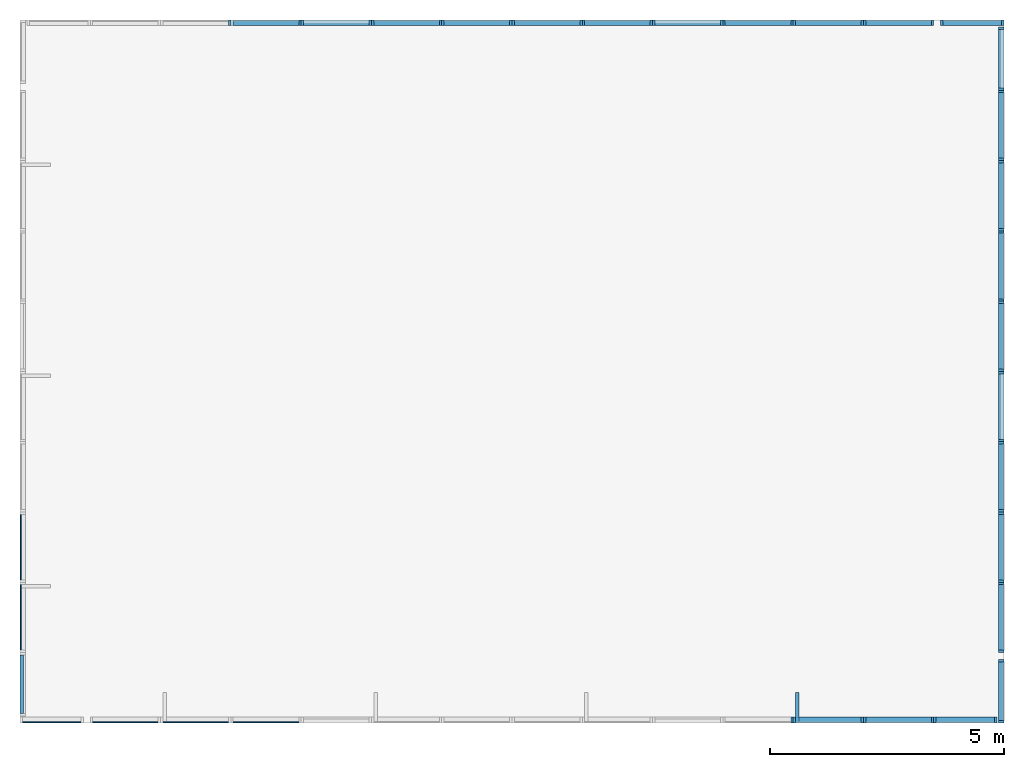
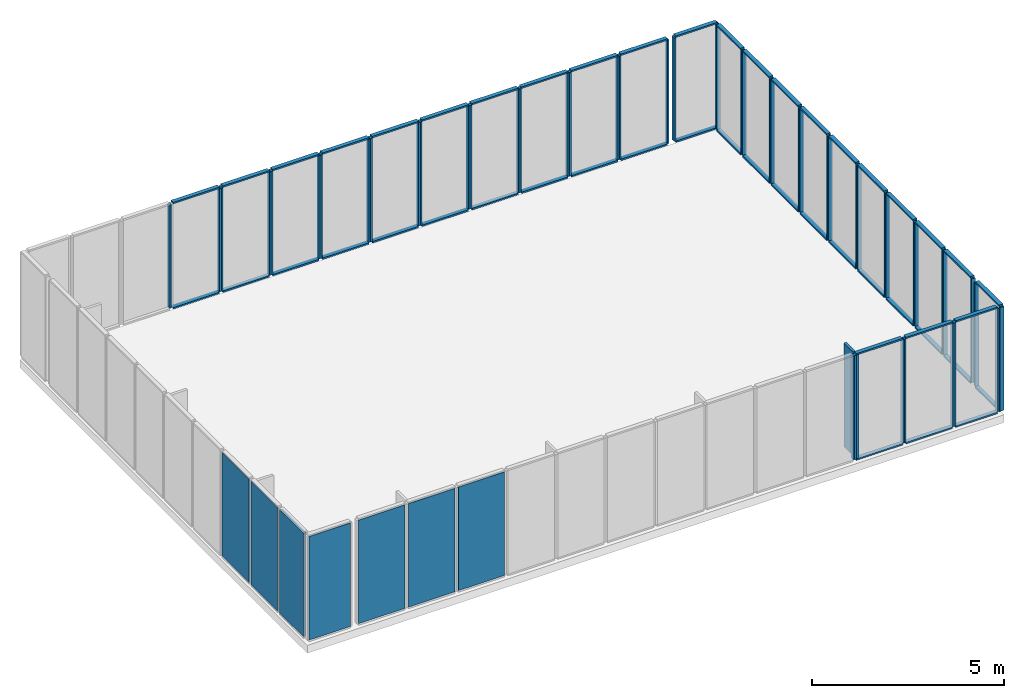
# One storey, part 2 of 3: 98 members, 7 plates.
"""IFC4 building model written with IfcOpenShell, lengths in metres."""

from ifc_helpers import new_model, si_unit, frame, origin_with_axes, place, context, subcontext, project, spatial, indexed_curve, outline, extrude, material, element, save


model = new_model("IFC4")

# Units and contexts
model_context = context("Model", 3, precision=1e-05, world=origin_with_axes())
body_context = subcontext(model_context, "Body", "Model", "MODEL_VIEW")
ifc_project = project(units=[si_unit("AREAUNIT", "SQUARE_METRE"), si_unit("VOLUMEUNIT", "CUBIC_METRE"), si_unit("LENGTHUNIT", "METRE")], contexts=[model_context])

# Site, building, storey
site = spatial("IfcSite", under=ifc_project, Name="Synthetic Site")
building = spatial("IfcBuilding", under=site, Name="Complex Tower")
storey_placement = place(None, frame((0.0, 0.0, 30.6), z_axis=(0.0, 0.0, 1.0), x_axis=(1.0, 0.0, 0.0)))
storey = spatial("IfcBuildingStorey", under=building, at=storey_placement, Name="L09", Elevation=30.6)

# Members
ifc_material_1 = material(Name="Aluminium")
for number, where, z_axis, x_axis, name in (
    (1, (19.45, 1.5, 0.14999999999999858), (0.0, 0.0, 1.0), (1.0, 0.0, 0.0), "CT-L09-S-011-MR"),
    (2, (19.5, 1.5, 0.14999999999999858), (0.0, 0.0, 1.0), (1.0, 0.0, 0.0), "CT-L09-S-012-ML"),
    (3, (20.95, 1.5, 0.14999999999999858), (0.0, 0.0, 1.0), (1.0, 0.0, 0.0), "CT-L09-S-012-MR"),
):
    element("IfcMember", number, at=place(storey_placement, frame(where, z_axis=z_axis, x_axis=x_axis)), inside=storey, material=ifc_material_1, Name=name, PredefinedType="MULLION", context=body_context, shape_type="SweptSolid", body=[
        extrude(outline(indexed_curve([(0.0, 0.0), (0.0, 0.12), (0.05, 0.12), (0.05, 0.0), (0.0, 0.0)], self_intersect=False)), origin_with_axes(), (0.0, 0.0, 1.0), 3.3000000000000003),
    ])
for number, where, z_axis, x_axis, name in (
    (4, (19.55, 1.5, 0.09999999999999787), (0.0, 0.0, 1.0), (1.0, 0.0, 0.0), "CT-L09-S-012-FB"),
    (5, (19.55, 1.5, 3.4499999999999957), (0.0, 0.0, 1.0), (1.0, 0.0, 0.0), "CT-L09-S-012-FT"),
):
    element("IfcMember", number, at=place(storey_placement, frame(where, z_axis=z_axis, x_axis=x_axis)), inside=storey, material=ifc_material_1, Name=name, PredefinedType="MULLION", context=body_context, shape_type="SweptSolid", body=[
        extrude(outline(indexed_curve([(0.0, 0.0), (0.0, 0.12), (1.4, 0.12), (1.4, 0.0), (0.0, 0.0)], self_intersect=False)), origin_with_axes(), (0.0, 0.0, 1.0), 0.05),
    ])
member_1_placement = place(storey_placement, frame((19.55, 1.5, 0.14999999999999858), z_axis=(0.0, 0.0, 1.0), x_axis=(1.0, 0.0, 0.0)))
element("IfcMember", 6, at=member_1_placement, inside=storey, material=ifc_material_1, Name="CT-L09-S-012-FIN", ObjectType="Solar shading", PredefinedType="USERDEFINED", context=body_context, shape_type="SweptSolid", body=[
    extrude(outline(indexed_curve([(0.0, 0.0), (0.0, 0.65), (0.075, 0.65), (0.075, 0.0), (0.0, 0.0)], self_intersect=False)), origin_with_axes(), (0.0, 0.0, 1.0), 3.3000000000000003),
])
for number, where, z_axis, x_axis, name in (
    (7, (21.0, 1.5, 0.14999999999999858), (0.0, 0.0, 1.0), (1.0, 0.0, 0.0), "CT-L09-S-013-ML"),
    (8, (22.45, 1.5, 0.14999999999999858), (0.0, 0.0, 1.0), (1.0, 0.0, 0.0), "CT-L09-S-013-MR"),
):
    element("IfcMember", number, at=place(storey_placement, frame(where, z_axis=z_axis, x_axis=x_axis)), inside=storey, material=ifc_material_1, Name=name, PredefinedType="MULLION", context=body_context, shape_type="SweptSolid", body=[
        extrude(outline(indexed_curve([(0.0, 0.0), (0.0, 0.12), (0.05, 0.12), (0.05, 0.0), (0.0, 0.0)], self_intersect=False)), origin_with_axes(), (0.0, 0.0, 1.0), 3.3000000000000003),
    ])
for number, where, z_axis, x_axis, name in (
    (9, (21.05, 1.5, 0.09999999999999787), (0.0, 0.0, 1.0), (1.0, 0.0, 0.0), "CT-L09-S-013-FB"),
    (10, (21.05, 1.5, 3.4499999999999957), (0.0, 0.0, 1.0), (1.0, 0.0, 0.0), "CT-L09-S-013-FT"),
):
    element("IfcMember", number, at=place(storey_placement, frame(where, z_axis=z_axis, x_axis=x_axis)), inside=storey, material=ifc_material_1, Name=name, PredefinedType="MULLION", context=body_context, shape_type="SweptSolid", body=[
        extrude(outline(indexed_curve([(0.0, 0.0), (0.0, 0.12), (1.4, 0.12), (1.4, 0.0), (0.0, 0.0)], self_intersect=False)), origin_with_axes(), (0.0, 0.0, 1.0), 0.05),
    ])
for number, where, z_axis, x_axis, name in (
    (11, (22.5, 1.5, 0.14999999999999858), (0.0, 0.0, 1.0), (1.0, 0.0, 0.0), "CT-L09-S-014-ML"),
    (12, (23.8, 1.5, 0.14999999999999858), (0.0, 0.0, 1.0), (1.0, 0.0, 0.0), "CT-L09-S-014-MR"),
):
    element("IfcMember", number, at=place(storey_placement, frame(where, z_axis=z_axis, x_axis=x_axis)), inside=storey, material=ifc_material_1, Name=name, PredefinedType="MULLION", context=body_context, shape_type="SweptSolid", body=[
        extrude(outline(indexed_curve([(0.0, 0.0), (0.0, 0.12), (0.05, 0.12), (0.05, 0.0), (0.0, 0.0)], self_intersect=False)), origin_with_axes(), (0.0, 0.0, 1.0), 3.3000000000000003),
    ])
for number, where, z_axis, x_axis, name in (
    (13, (22.55, 1.5, 0.09999999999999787), (0.0, 0.0, 1.0), (1.0, 0.0, 0.0), "CT-L09-S-014-FB"),
    (14, (22.55, 1.5, 3.4499999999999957), (0.0, 0.0, 1.0), (1.0, 0.0, 0.0), "CT-L09-S-014-FT"),
):
    element("IfcMember", number, at=place(storey_placement, frame(where, z_axis=z_axis, x_axis=x_axis)), inside=storey, material=ifc_material_1, Name=name, PredefinedType="MULLION", context=body_context, shape_type="SweptSolid", body=[
        extrude(outline(indexed_curve([(0.0, 0.0), (0.0, 0.12), (1.25, 0.12), (1.25, 0.0), (0.0, 0.0)], self_intersect=False)), origin_with_axes(), (0.0, 0.0, 1.0), 0.05),
    ])
for number, where, z_axis, x_axis, name in (
    (15, (24.0, 1.5, 0.14999999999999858), (0.0, 0.0, 1.0), (6.123233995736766e-17, 1.0, 0.0), "CT-L09-E-001-ML"),
    (16, (24.0, 2.8, 0.14999999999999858), (0.0, 0.0, 1.0), (6.123233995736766e-17, 1.0, 0.0), "CT-L09-E-001-MR"),
):
    element("IfcMember", number, at=place(storey_placement, frame(where, z_axis=z_axis, x_axis=x_axis)), inside=storey, material=ifc_material_1, Name=name, PredefinedType="MULLION", context=body_context, shape_type="SweptSolid", body=[
        extrude(outline(indexed_curve([(0.0, 0.0), (0.0, 0.12), (0.05, 0.12), (0.05, 0.0), (0.0, 0.0)], self_intersect=False)), origin_with_axes(), (0.0, 0.0, 1.0), 3.3000000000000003),
    ])
for number, where, z_axis, x_axis, name in (
    (17, (24.0, 1.55, 0.09999999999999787), (0.0, 0.0, 1.0), (6.123233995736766e-17, 1.0, 0.0), "CT-L09-E-001-FB"),
    (18, (24.0, 1.55, 3.4499999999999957), (0.0, 0.0, 1.0), (6.123233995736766e-17, 1.0, 0.0), "CT-L09-E-001-FT"),
):
    element("IfcMember", number, at=place(storey_placement, frame(where, z_axis=z_axis, x_axis=x_axis)), inside=storey, material=ifc_material_1, Name=name, PredefinedType="MULLION", context=body_context, shape_type="SweptSolid", body=[
        extrude(outline(indexed_curve([(0.0, 0.0), (0.0, 0.12), (1.25, 0.12), (1.25, 0.0), (0.0, 0.0)], self_intersect=False)), origin_with_axes(), (0.0, 0.0, 1.0), 0.05),
    ])
for number, where, z_axis, x_axis, name in (
    (19, (24.0, 3.0, 0.14999999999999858), (0.0, 0.0, 1.0), (6.123233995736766e-17, 1.0, 0.0), "CT-L09-E-002-ML"),
    (20, (24.0, 4.449999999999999, 0.14999999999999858), (0.0, 0.0, 1.0), (6.123233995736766e-17, 1.0, 0.0), "CT-L09-E-002-MR"),
):
    element("IfcMember", number, at=place(storey_placement, frame(where, z_axis=z_axis, x_axis=x_axis)), inside=storey, material=ifc_material_1, Name=name, PredefinedType="MULLION", context=body_context, shape_type="SweptSolid", body=[
        extrude(outline(indexed_curve([(0.0, 0.0), (0.0, 0.12), (0.05, 0.12), (0.05, 0.0), (0.0, 0.0)], self_intersect=False)), origin_with_axes(), (0.0, 0.0, 1.0), 3.3000000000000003),
    ])
for number, where, z_axis, x_axis, name in (
    (21, (24.0, 3.05, 0.09999999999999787), (0.0, 0.0, 1.0), (6.123233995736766e-17, 1.0, 0.0), "CT-L09-E-002-FB"),
    (22, (24.0, 3.05, 3.4499999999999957), (0.0, 0.0, 1.0), (6.123233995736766e-17, 1.0, 0.0), "CT-L09-E-002-FT"),
):
    element("IfcMember", number, at=place(storey_placement, frame(where, z_axis=z_axis, x_axis=x_axis)), inside=storey, material=ifc_material_1, Name=name, PredefinedType="MULLION", context=body_context, shape_type="SweptSolid", body=[
        extrude(outline(indexed_curve([(0.0, 0.0), (0.0, 0.12), (1.4, 0.12), (1.4, 0.0), (0.0, 0.0)], self_intersect=False)), origin_with_axes(), (0.0, 0.0, 1.0), 0.05),
    ])
for number, where, z_axis, x_axis, name in (
    (23, (24.0, 4.5, 0.14999999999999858), (0.0, 0.0, 1.0), (6.123233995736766e-17, 1.0, 0.0), "CT-L09-E-003-ML"),
    (24, (24.0, 5.949999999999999, 0.14999999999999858), (0.0, 0.0, 1.0), (6.123233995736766e-17, 1.0, 0.0), "CT-L09-E-003-MR"),
):
    element("IfcMember", number, at=place(storey_placement, frame(where, z_axis=z_axis, x_axis=x_axis)), inside=storey, material=ifc_material_1, Name=name, PredefinedType="MULLION", context=body_context, shape_type="SweptSolid", body=[
        extrude(outline(indexed_curve([(0.0, 0.0), (0.0, 0.12), (0.05, 0.12), (0.05, 0.0), (0.0, 0.0)], self_intersect=False)), origin_with_axes(), (0.0, 0.0, 1.0), 3.3000000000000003),
    ])
for number, where, z_axis, x_axis, name in (
    (25, (24.0, 4.55, 0.09999999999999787), (0.0, 0.0, 1.0), (6.123233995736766e-17, 1.0, 0.0), "CT-L09-E-003-FB"),
    (26, (24.0, 4.55, 3.4499999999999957), (0.0, 0.0, 1.0), (6.123233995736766e-17, 1.0, 0.0), "CT-L09-E-003-FT"),
):
    element("IfcMember", number, at=place(storey_placement, frame(where, z_axis=z_axis, x_axis=x_axis)), inside=storey, material=ifc_material_1, Name=name, PredefinedType="MULLION", context=body_context, shape_type="SweptSolid", body=[
        extrude(outline(indexed_curve([(0.0, 0.0), (0.0, 0.12), (1.4, 0.12), (1.4, 0.0), (0.0, 0.0)], self_intersect=False)), origin_with_axes(), (0.0, 0.0, 1.0), 0.05),
    ])
for number, where, z_axis, x_axis, name in (
    (27, (24.0, 6.0, 0.14999999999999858), (0.0, 0.0, 1.0), (6.123233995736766e-17, 1.0, 0.0), "CT-L09-E-004-ML"),
    (28, (24.0, 7.449999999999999, 0.14999999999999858), (0.0, 0.0, 1.0), (6.123233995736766e-17, 1.0, 0.0), "CT-L09-E-004-MR"),
):
    element("IfcMember", number, at=place(storey_placement, frame(where, z_axis=z_axis, x_axis=x_axis)), inside=storey, material=ifc_material_1, Name=name, PredefinedType="MULLION", context=body_context, shape_type="SweptSolid", body=[
        extrude(outline(indexed_curve([(0.0, 0.0), (0.0, 0.12), (0.05, 0.12), (0.05, 0.0), (0.0, 0.0)], self_intersect=False)), origin_with_axes(), (0.0, 0.0, 1.0), 3.3000000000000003),
    ])
for number, where, z_axis, x_axis, name in (
    (29, (24.0, 6.05, 0.09999999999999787), (0.0, 0.0, 1.0), (6.123233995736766e-17, 1.0, 0.0), "CT-L09-E-004-FB"),
    (30, (24.0, 6.05, 3.4499999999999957), (0.0, 0.0, 1.0), (6.123233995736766e-17, 1.0, 0.0), "CT-L09-E-004-FT"),
):
    element("IfcMember", number, at=place(storey_placement, frame(where, z_axis=z_axis, x_axis=x_axis)), inside=storey, material=ifc_material_1, Name=name, PredefinedType="MULLION", context=body_context, shape_type="SweptSolid", body=[
        extrude(outline(indexed_curve([(0.0, 0.0), (0.0, 0.12), (1.4, 0.12), (1.4, 0.0), (0.0, 0.0)], self_intersect=False)), origin_with_axes(), (0.0, 0.0, 1.0), 0.05),
    ])
for number, where, z_axis, x_axis, name in (
    (31, (24.0, 7.5, 0.14999999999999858), (0.0, 0.0, 1.0), (6.123233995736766e-17, 1.0, 0.0), "CT-L09-E-005-ML"),
    (32, (24.0, 8.95, 0.14999999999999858), (0.0, 0.0, 1.0), (6.123233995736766e-17, 1.0, 0.0), "CT-L09-E-005-MR"),
):
    element("IfcMember", number, at=place(storey_placement, frame(where, z_axis=z_axis, x_axis=x_axis)), inside=storey, material=ifc_material_1, Name=name, PredefinedType="MULLION", context=body_context, shape_type="SweptSolid", body=[
        extrude(outline(indexed_curve([(0.0, 0.0), (0.0, 0.12), (0.05, 0.12), (0.05, 0.0), (0.0, 0.0)], self_intersect=False)), origin_with_axes(), (0.0, 0.0, 1.0), 3.3000000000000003),
    ])
for number, where, z_axis, x_axis, name in (
    (33, (24.0, 7.55, 0.09999999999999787), (0.0, 0.0, 1.0), (6.123233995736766e-17, 1.0, 0.0), "CT-L09-E-005-FB"),
    (34, (24.0, 7.55, 3.4499999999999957), (0.0, 0.0, 1.0), (6.123233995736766e-17, 1.0, 0.0), "CT-L09-E-005-FT"),
):
    element("IfcMember", number, at=place(storey_placement, frame(where, z_axis=z_axis, x_axis=x_axis)), inside=storey, material=ifc_material_1, Name=name, PredefinedType="MULLION", context=body_context, shape_type="SweptSolid", body=[
        extrude(outline(indexed_curve([(0.0, 0.0), (0.0, 0.12), (1.4, 0.12), (1.4, 0.0), (0.0, 0.0)], self_intersect=False)), origin_with_axes(), (0.0, 0.0, 1.0), 0.05),
    ])
for number, where, z_axis, x_axis, name in (
    (35, (24.0, 9.0, 0.14999999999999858), (0.0, 0.0, 1.0), (6.123233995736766e-17, 1.0, 0.0), "CT-L09-E-006-ML"),
    (36, (24.0, 10.450000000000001, 0.14999999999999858), (0.0, 0.0, 1.0), (6.123233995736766e-17, 1.0, 0.0), "CT-L09-E-006-MR"),
):
    element("IfcMember", number, at=place(storey_placement, frame(where, z_axis=z_axis, x_axis=x_axis)), inside=storey, material=ifc_material_1, Name=name, PredefinedType="MULLION", context=body_context, shape_type="SweptSolid", body=[
        extrude(outline(indexed_curve([(0.0, 0.0), (0.0, 0.12), (0.05, 0.12), (0.05, 0.0), (0.0, 0.0)], self_intersect=False)), origin_with_axes(), (0.0, 0.0, 1.0), 3.3000000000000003),
    ])
for number, where, z_axis, x_axis, name in (
    (37, (24.0, 9.05, 0.09999999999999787), (0.0, 0.0, 1.0), (6.123233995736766e-17, 1.0, 0.0), "CT-L09-E-006-FB"),
    (38, (24.0, 9.05, 3.4499999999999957), (0.0, 0.0, 1.0), (6.123233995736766e-17, 1.0, 0.0), "CT-L09-E-006-FT"),
):
    element("IfcMember", number, at=place(storey_placement, frame(where, z_axis=z_axis, x_axis=x_axis)), inside=storey, material=ifc_material_1, Name=name, PredefinedType="MULLION", context=body_context, shape_type="SweptSolid", body=[
        extrude(outline(indexed_curve([(0.0, 0.0), (0.0, 0.12), (1.4, 0.12), (1.4, 0.0), (0.0, 0.0)], self_intersect=False)), origin_with_axes(), (0.0, 0.0, 1.0), 0.05),
    ])
for number, where, z_axis, x_axis, name in (
    (39, (24.0, 10.5, 0.14999999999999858), (0.0, 0.0, 1.0), (6.123233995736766e-17, 1.0, 0.0), "CT-L09-E-007-ML"),
    (40, (24.0, 11.950000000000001, 0.14999999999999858), (0.0, 0.0, 1.0), (6.123233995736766e-17, 1.0, 0.0), "CT-L09-E-007-MR"),
):
    element("IfcMember", number, at=place(storey_placement, frame(where, z_axis=z_axis, x_axis=x_axis)), inside=storey, material=ifc_material_1, Name=name, PredefinedType="MULLION", context=body_context, shape_type="SweptSolid", body=[
        extrude(outline(indexed_curve([(0.0, 0.0), (0.0, 0.12), (0.05, 0.12), (0.05, 0.0), (0.0, 0.0)], self_intersect=False)), origin_with_axes(), (0.0, 0.0, 1.0), 3.3000000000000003),
    ])
for number, where, z_axis, x_axis, name in (
    (41, (24.0, 10.55, 0.09999999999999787), (0.0, 0.0, 1.0), (6.123233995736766e-17, 1.0, 0.0), "CT-L09-E-007-FB"),
    (42, (24.0, 10.55, 3.4499999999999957), (0.0, 0.0, 1.0), (6.123233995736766e-17, 1.0, 0.0), "CT-L09-E-007-FT"),
):
    element("IfcMember", number, at=place(storey_placement, frame(where, z_axis=z_axis, x_axis=x_axis)), inside=storey, material=ifc_material_1, Name=name, PredefinedType="MULLION", context=body_context, shape_type="SweptSolid", body=[
        extrude(outline(indexed_curve([(0.0, 0.0), (0.0, 0.12), (1.4, 0.12), (1.4, 0.0), (0.0, 0.0)], self_intersect=False)), origin_with_axes(), (0.0, 0.0, 1.0), 0.05),
    ])
for number, where, z_axis, x_axis, name in (
    (43, (24.0, 12.0, 0.14999999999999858), (0.0, 0.0, 1.0), (6.123233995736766e-17, 1.0, 0.0), "CT-L09-E-008-ML"),
    (44, (24.0, 13.450000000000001, 0.14999999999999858), (0.0, 0.0, 1.0), (6.123233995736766e-17, 1.0, 0.0), "CT-L09-E-008-MR"),
):
    element("IfcMember", number, at=place(storey_placement, frame(where, z_axis=z_axis, x_axis=x_axis)), inside=storey, material=ifc_material_1, Name=name, PredefinedType="MULLION", context=body_context, shape_type="SweptSolid", body=[
        extrude(outline(indexed_curve([(0.0, 0.0), (0.0, 0.12), (0.05, 0.12), (0.05, 0.0), (0.0, 0.0)], self_intersect=False)), origin_with_axes(), (0.0, 0.0, 1.0), 3.3000000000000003),
    ])
for number, where, z_axis, x_axis, name in (
    (45, (24.0, 12.05, 0.09999999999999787), (0.0, 0.0, 1.0), (6.123233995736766e-17, 1.0, 0.0), "CT-L09-E-008-FB"),
    (46, (24.0, 12.05, 3.4499999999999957), (0.0, 0.0, 1.0), (6.123233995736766e-17, 1.0, 0.0), "CT-L09-E-008-FT"),
):
    element("IfcMember", number, at=place(storey_placement, frame(where, z_axis=z_axis, x_axis=x_axis)), inside=storey, material=ifc_material_1, Name=name, PredefinedType="MULLION", context=body_context, shape_type="SweptSolid", body=[
        extrude(outline(indexed_curve([(0.0, 0.0), (0.0, 0.12), (1.4, 0.12), (1.4, 0.0), (0.0, 0.0)], self_intersect=False)), origin_with_axes(), (0.0, 0.0, 1.0), 0.05),
    ])
for number, where, z_axis, x_axis, name in (
    (47, (24.0, 13.5, 0.14999999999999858), (0.0, 0.0, 1.0), (6.123233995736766e-17, 1.0, 0.0), "CT-L09-E-009-ML"),
    (48, (24.0, 14.950000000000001, 0.14999999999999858), (0.0, 0.0, 1.0), (6.123233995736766e-17, 1.0, 0.0), "CT-L09-E-009-MR"),
):
    element("IfcMember", number, at=place(storey_placement, frame(where, z_axis=z_axis, x_axis=x_axis)), inside=storey, material=ifc_material_1, Name=name, PredefinedType="MULLION", context=body_context, shape_type="SweptSolid", body=[
        extrude(outline(indexed_curve([(0.0, 0.0), (0.0, 0.12), (0.05, 0.12), (0.05, 0.0), (0.0, 0.0)], self_intersect=False)), origin_with_axes(), (0.0, 0.0, 1.0), 3.3000000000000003),
    ])
for number, where, z_axis, x_axis, name in (
    (49, (24.0, 13.55, 0.09999999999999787), (0.0, 0.0, 1.0), (6.123233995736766e-17, 1.0, 0.0), "CT-L09-E-009-FB"),
    (50, (24.0, 13.55, 3.4499999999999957), (0.0, 0.0, 1.0), (6.123233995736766e-17, 1.0, 0.0), "CT-L09-E-009-FT"),
):
    element("IfcMember", number, at=place(storey_placement, frame(where, z_axis=z_axis, x_axis=x_axis)), inside=storey, material=ifc_material_1, Name=name, PredefinedType="MULLION", context=body_context, shape_type="SweptSolid", body=[
        extrude(outline(indexed_curve([(0.0, 0.0), (0.0, 0.12), (1.4, 0.12), (1.4, 0.0), (0.0, 0.0)], self_intersect=False)), origin_with_axes(), (0.0, 0.0, 1.0), 0.05),
    ])
for number, where, z_axis, x_axis, name in (
    (51, (24.0, 15.0, 0.14999999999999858), (0.0, 0.0, 1.0), (6.123233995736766e-17, 1.0, 0.0), "CT-L09-E-010-ML"),
    (52, (24.0, 16.3, 0.14999999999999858), (0.0, 0.0, 1.0), (6.123233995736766e-17, 1.0, 0.0), "CT-L09-E-010-MR"),
):
    element("IfcMember", number, at=place(storey_placement, frame(where, z_axis=z_axis, x_axis=x_axis)), inside=storey, material=ifc_material_1, Name=name, PredefinedType="MULLION", context=body_context, shape_type="SweptSolid", body=[
        extrude(outline(indexed_curve([(0.0, 0.0), (0.0, 0.12), (0.05, 0.12), (0.05, 0.0), (0.0, 0.0)], self_intersect=False)), origin_with_axes(), (0.0, 0.0, 1.0), 3.3000000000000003),
    ])
for number, where, z_axis, x_axis, name in (
    (53, (24.0, 15.05, 0.09999999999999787), (0.0, 0.0, 1.0), (6.123233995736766e-17, 1.0, 0.0), "CT-L09-E-010-FB"),
    (54, (24.0, 15.05, 3.4499999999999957), (0.0, 0.0, 1.0), (6.123233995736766e-17, 1.0, 0.0), "CT-L09-E-010-FT"),
):
    element("IfcMember", number, at=place(storey_placement, frame(where, z_axis=z_axis, x_axis=x_axis)), inside=storey, material=ifc_material_1, Name=name, PredefinedType="MULLION", context=body_context, shape_type="SweptSolid", body=[
        extrude(outline(indexed_curve([(0.0, 0.0), (0.0, 0.12), (1.25, 0.12), (1.25, 0.0), (0.0, 0.0)], self_intersect=False)), origin_with_axes(), (0.0, 0.0, 1.0), 0.05),
    ])
for number, where, z_axis, x_axis, name in (
    (55, (24.0, 16.5, 0.14999999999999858), (0.0, 0.0, 1.0), (-1.0, 1.2246467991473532e-16, 0.0), "CT-L09-N-001-ML"),
    (56, (22.7, 16.5, 0.14999999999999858), (0.0, 0.0, 1.0), (-1.0, 1.2246467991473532e-16, 0.0), "CT-L09-N-001-MR"),
):
    element("IfcMember", number, at=place(storey_placement, frame(where, z_axis=z_axis, x_axis=x_axis)), inside=storey, material=ifc_material_1, Name=name, PredefinedType="MULLION", context=body_context, shape_type="SweptSolid", body=[
        extrude(outline(indexed_curve([(0.0, 0.0), (0.0, 0.12), (0.05, 0.12), (0.05, 0.0), (0.0, 0.0)], self_intersect=False)), origin_with_axes(), (0.0, 0.0, 1.0), 3.3000000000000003),
    ])
for number, where, z_axis, x_axis, name in (
    (57, (23.95, 16.5, 0.09999999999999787), (0.0, 0.0, 1.0), (-1.0, 1.2246467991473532e-16, 0.0), "CT-L09-N-001-FB"),
    (58, (23.95, 16.5, 3.4499999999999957), (0.0, 0.0, 1.0), (-1.0, 1.2246467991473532e-16, 0.0), "CT-L09-N-001-FT"),
):
    element("IfcMember", number, at=place(storey_placement, frame(where, z_axis=z_axis, x_axis=x_axis)), inside=storey, material=ifc_material_1, Name=name, PredefinedType="MULLION", context=body_context, shape_type="SweptSolid", body=[
        extrude(outline(indexed_curve([(0.0, 0.0), (0.0, 0.12), (1.25, 0.12), (1.25, 0.0), (0.0, 0.0)], self_intersect=False)), origin_with_axes(), (0.0, 0.0, 1.0), 0.05),
    ])
for number, where, z_axis, x_axis, name in (
    (59, (22.5, 16.5, 0.14999999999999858), (0.0, 0.0, 1.0), (-1.0, 1.2246467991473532e-16, 0.0), "CT-L09-N-002-ML"),
    (60, (21.05, 16.5, 0.14999999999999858), (0.0, 0.0, 1.0), (-1.0, 1.2246467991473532e-16, 0.0), "CT-L09-N-002-MR"),
):
    element("IfcMember", number, at=place(storey_placement, frame(where, z_axis=z_axis, x_axis=x_axis)), inside=storey, material=ifc_material_1, Name=name, PredefinedType="MULLION", context=body_context, shape_type="SweptSolid", body=[
        extrude(outline(indexed_curve([(0.0, 0.0), (0.0, 0.12), (0.05, 0.12), (0.05, 0.0), (0.0, 0.0)], self_intersect=False)), origin_with_axes(), (0.0, 0.0, 1.0), 3.3000000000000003),
    ])
for number, where, z_axis, x_axis, name in (
    (61, (22.45, 16.5, 0.09999999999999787), (0.0, 0.0, 1.0), (-1.0, 1.2246467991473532e-16, 0.0), "CT-L09-N-002-FB"),
    (62, (22.45, 16.5, 3.4499999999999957), (0.0, 0.0, 1.0), (-1.0, 1.2246467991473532e-16, 0.0), "CT-L09-N-002-FT"),
):
    element("IfcMember", number, at=place(storey_placement, frame(where, z_axis=z_axis, x_axis=x_axis)), inside=storey, material=ifc_material_1, Name=name, PredefinedType="MULLION", context=body_context, shape_type="SweptSolid", body=[
        extrude(outline(indexed_curve([(0.0, 0.0), (0.0, 0.12), (1.4, 0.12), (1.4, 0.0), (0.0, 0.0)], self_intersect=False)), origin_with_axes(), (0.0, 0.0, 1.0), 0.05),
    ])
for number, where, z_axis, x_axis, name in (
    (63, (21.0, 16.5, 0.14999999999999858), (0.0, 0.0, 1.0), (-1.0, 1.2246467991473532e-16, 0.0), "CT-L09-N-003-ML"),
    (64, (19.55, 16.5, 0.14999999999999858), (0.0, 0.0, 1.0), (-1.0, 1.2246467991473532e-16, 0.0), "CT-L09-N-003-MR"),
):
    element("IfcMember", number, at=place(storey_placement, frame(where, z_axis=z_axis, x_axis=x_axis)), inside=storey, material=ifc_material_1, Name=name, PredefinedType="MULLION", context=body_context, shape_type="SweptSolid", body=[
        extrude(outline(indexed_curve([(0.0, 0.0), (0.0, 0.12), (0.05, 0.12), (0.05, 0.0), (0.0, 0.0)], self_intersect=False)), origin_with_axes(), (0.0, 0.0, 1.0), 3.3000000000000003),
    ])
for number, where, z_axis, x_axis, name in (
    (65, (20.95, 16.5, 0.09999999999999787), (0.0, 0.0, 1.0), (-1.0, 1.2246467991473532e-16, 0.0), "CT-L09-N-003-FB"),
    (66, (20.95, 16.5, 3.4499999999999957), (0.0, 0.0, 1.0), (-1.0, 1.2246467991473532e-16, 0.0), "CT-L09-N-003-FT"),
):
    element("IfcMember", number, at=place(storey_placement, frame(where, z_axis=z_axis, x_axis=x_axis)), inside=storey, material=ifc_material_1, Name=name, PredefinedType="MULLION", context=body_context, shape_type="SweptSolid", body=[
        extrude(outline(indexed_curve([(0.0, 0.0), (0.0, 0.12), (1.4, 0.12), (1.4, 0.0), (0.0, 0.0)], self_intersect=False)), origin_with_axes(), (0.0, 0.0, 1.0), 0.05),
    ])
for number, where, z_axis, x_axis, name in (
    (67, (19.5, 16.5, 0.14999999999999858), (0.0, 0.0, 1.0), (-1.0, 1.2246467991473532e-16, 0.0), "CT-L09-N-004-ML"),
    (68, (18.05, 16.5, 0.14999999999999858), (0.0, 0.0, 1.0), (-1.0, 1.2246467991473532e-16, 0.0), "CT-L09-N-004-MR"),
):
    element("IfcMember", number, at=place(storey_placement, frame(where, z_axis=z_axis, x_axis=x_axis)), inside=storey, material=ifc_material_1, Name=name, PredefinedType="MULLION", context=body_context, shape_type="SweptSolid", body=[
        extrude(outline(indexed_curve([(0.0, 0.0), (0.0, 0.12), (0.05, 0.12), (0.05, 0.0), (0.0, 0.0)], self_intersect=False)), origin_with_axes(), (0.0, 0.0, 1.0), 3.3000000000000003),
    ])
for number, where, z_axis, x_axis, name in (
    (69, (19.45, 16.5, 0.09999999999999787), (0.0, 0.0, 1.0), (-1.0, 1.2246467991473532e-16, 0.0), "CT-L09-N-004-FB"),
    (70, (19.45, 16.5, 3.4499999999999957), (0.0, 0.0, 1.0), (-1.0, 1.2246467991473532e-16, 0.0), "CT-L09-N-004-FT"),
):
    element("IfcMember", number, at=place(storey_placement, frame(where, z_axis=z_axis, x_axis=x_axis)), inside=storey, material=ifc_material_1, Name=name, PredefinedType="MULLION", context=body_context, shape_type="SweptSolid", body=[
        extrude(outline(indexed_curve([(0.0, 0.0), (0.0, 0.12), (1.4, 0.12), (1.4, 0.0), (0.0, 0.0)], self_intersect=False)), origin_with_axes(), (0.0, 0.0, 1.0), 0.05),
    ])
for number, where, z_axis, x_axis, name in (
    (71, (18.0, 16.5, 0.14999999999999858), (0.0, 0.0, 1.0), (-1.0, 1.2246467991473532e-16, 0.0), "CT-L09-N-005-ML"),
    (72, (16.55, 16.5, 0.14999999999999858), (0.0, 0.0, 1.0), (-1.0, 1.2246467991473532e-16, 0.0), "CT-L09-N-005-MR"),
):
    element("IfcMember", number, at=place(storey_placement, frame(where, z_axis=z_axis, x_axis=x_axis)), inside=storey, material=ifc_material_1, Name=name, PredefinedType="MULLION", context=body_context, shape_type="SweptSolid", body=[
        extrude(outline(indexed_curve([(0.0, 0.0), (0.0, 0.12), (0.05, 0.12), (0.05, 0.0), (0.0, 0.0)], self_intersect=False)), origin_with_axes(), (0.0, 0.0, 1.0), 3.3000000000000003),
    ])
for number, where, z_axis, x_axis, name in (
    (73, (17.95, 16.5, 0.09999999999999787), (0.0, 0.0, 1.0), (-1.0, 1.2246467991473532e-16, 0.0), "CT-L09-N-005-FB"),
    (74, (17.95, 16.5, 3.4499999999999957), (0.0, 0.0, 1.0), (-1.0, 1.2246467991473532e-16, 0.0), "CT-L09-N-005-FT"),
):
    element("IfcMember", number, at=place(storey_placement, frame(where, z_axis=z_axis, x_axis=x_axis)), inside=storey, material=ifc_material_1, Name=name, PredefinedType="MULLION", context=body_context, shape_type="SweptSolid", body=[
        extrude(outline(indexed_curve([(0.0, 0.0), (0.0, 0.12), (1.4, 0.12), (1.4, 0.0), (0.0, 0.0)], self_intersect=False)), origin_with_axes(), (0.0, 0.0, 1.0), 0.05),
    ])
for number, where, z_axis, x_axis, name in (
    (75, (16.5, 16.5, 0.14999999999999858), (0.0, 0.0, 1.0), (-1.0, 1.2246467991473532e-16, 0.0), "CT-L09-N-006-ML"),
    (76, (15.049999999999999, 16.5, 0.14999999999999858), (0.0, 0.0, 1.0), (-1.0, 1.2246467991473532e-16, 0.0), "CT-L09-N-006-MR"),
):
    element("IfcMember", number, at=place(storey_placement, frame(where, z_axis=z_axis, x_axis=x_axis)), inside=storey, material=ifc_material_1, Name=name, PredefinedType="MULLION", context=body_context, shape_type="SweptSolid", body=[
        extrude(outline(indexed_curve([(0.0, 0.0), (0.0, 0.12), (0.05, 0.12), (0.05, 0.0), (0.0, 0.0)], self_intersect=False)), origin_with_axes(), (0.0, 0.0, 1.0), 3.3000000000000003),
    ])
for number, where, z_axis, x_axis, name in (
    (77, (16.45, 16.5, 0.09999999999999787), (0.0, 0.0, 1.0), (-1.0, 1.2246467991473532e-16, 0.0), "CT-L09-N-006-FB"),
    (78, (16.45, 16.5, 3.4499999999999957), (0.0, 0.0, 1.0), (-1.0, 1.2246467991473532e-16, 0.0), "CT-L09-N-006-FT"),
):
    element("IfcMember", number, at=place(storey_placement, frame(where, z_axis=z_axis, x_axis=x_axis)), inside=storey, material=ifc_material_1, Name=name, PredefinedType="MULLION", context=body_context, shape_type="SweptSolid", body=[
        extrude(outline(indexed_curve([(0.0, 0.0), (0.0, 0.12), (1.4, 0.12), (1.4, 0.0), (0.0, 0.0)], self_intersect=False)), origin_with_axes(), (0.0, 0.0, 1.0), 0.05),
    ])
for number, where, z_axis, x_axis, name in (
    (79, (15.0, 16.5, 0.14999999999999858), (0.0, 0.0, 1.0), (-1.0, 1.2246467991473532e-16, 0.0), "CT-L09-N-007-ML"),
    (80, (13.549999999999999, 16.5, 0.14999999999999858), (0.0, 0.0, 1.0), (-1.0, 1.2246467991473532e-16, 0.0), "CT-L09-N-007-MR"),
):
    element("IfcMember", number, at=place(storey_placement, frame(where, z_axis=z_axis, x_axis=x_axis)), inside=storey, material=ifc_material_1, Name=name, PredefinedType="MULLION", context=body_context, shape_type="SweptSolid", body=[
        extrude(outline(indexed_curve([(0.0, 0.0), (0.0, 0.12), (0.05, 0.12), (0.05, 0.0), (0.0, 0.0)], self_intersect=False)), origin_with_axes(), (0.0, 0.0, 1.0), 3.3000000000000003),
    ])
for number, where, z_axis, x_axis, name in (
    (81, (14.95, 16.5, 0.09999999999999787), (0.0, 0.0, 1.0), (-1.0, 1.2246467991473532e-16, 0.0), "CT-L09-N-007-FB"),
    (82, (14.95, 16.5, 3.4499999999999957), (0.0, 0.0, 1.0), (-1.0, 1.2246467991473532e-16, 0.0), "CT-L09-N-007-FT"),
):
    element("IfcMember", number, at=place(storey_placement, frame(where, z_axis=z_axis, x_axis=x_axis)), inside=storey, material=ifc_material_1, Name=name, PredefinedType="MULLION", context=body_context, shape_type="SweptSolid", body=[
        extrude(outline(indexed_curve([(0.0, 0.0), (0.0, 0.12), (1.4, 0.12), (1.4, 0.0), (0.0, 0.0)], self_intersect=False)), origin_with_axes(), (0.0, 0.0, 1.0), 0.05),
    ])
for number, where, z_axis, x_axis, name in (
    (83, (13.5, 16.5, 0.14999999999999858), (0.0, 0.0, 1.0), (-1.0, 1.2246467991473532e-16, 0.0), "CT-L09-N-008-ML"),
    (84, (12.049999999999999, 16.5, 0.14999999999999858), (0.0, 0.0, 1.0), (-1.0, 1.2246467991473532e-16, 0.0), "CT-L09-N-008-MR"),
):
    element("IfcMember", number, at=place(storey_placement, frame(where, z_axis=z_axis, x_axis=x_axis)), inside=storey, material=ifc_material_1, Name=name, PredefinedType="MULLION", context=body_context, shape_type="SweptSolid", body=[
        extrude(outline(indexed_curve([(0.0, 0.0), (0.0, 0.12), (0.05, 0.12), (0.05, 0.0), (0.0, 0.0)], self_intersect=False)), origin_with_axes(), (0.0, 0.0, 1.0), 3.3000000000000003),
    ])
for number, where, z_axis, x_axis, name in (
    (85, (13.45, 16.5, 0.09999999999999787), (0.0, 0.0, 1.0), (-1.0, 1.2246467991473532e-16, 0.0), "CT-L09-N-008-FB"),
    (86, (13.45, 16.5, 3.4499999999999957), (0.0, 0.0, 1.0), (-1.0, 1.2246467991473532e-16, 0.0), "CT-L09-N-008-FT"),
):
    element("IfcMember", number, at=place(storey_placement, frame(where, z_axis=z_axis, x_axis=x_axis)), inside=storey, material=ifc_material_1, Name=name, PredefinedType="MULLION", context=body_context, shape_type="SweptSolid", body=[
        extrude(outline(indexed_curve([(0.0, 0.0), (0.0, 0.12), (1.4, 0.12), (1.4, 0.0), (0.0, 0.0)], self_intersect=False)), origin_with_axes(), (0.0, 0.0, 1.0), 0.05),
    ])
for number, where, z_axis, x_axis, name in (
    (87, (12.0, 16.5, 0.14999999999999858), (0.0, 0.0, 1.0), (-1.0, 1.2246467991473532e-16, 0.0), "CT-L09-N-009-ML"),
    (88, (10.549999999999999, 16.5, 0.14999999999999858), (0.0, 0.0, 1.0), (-1.0, 1.2246467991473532e-16, 0.0), "CT-L09-N-009-MR"),
):
    element("IfcMember", number, at=place(storey_placement, frame(where, z_axis=z_axis, x_axis=x_axis)), inside=storey, material=ifc_material_1, Name=name, PredefinedType="MULLION", context=body_context, shape_type="SweptSolid", body=[
        extrude(outline(indexed_curve([(0.0, 0.0), (0.0, 0.12), (0.05, 0.12), (0.05, 0.0), (0.0, 0.0)], self_intersect=False)), origin_with_axes(), (0.0, 0.0, 1.0), 3.3000000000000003),
    ])
for number, where, z_axis, x_axis, name in (
    (89, (11.95, 16.5, 0.09999999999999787), (0.0, 0.0, 1.0), (-1.0, 1.2246467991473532e-16, 0.0), "CT-L09-N-009-FB"),
    (90, (11.95, 16.5, 3.4499999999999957), (0.0, 0.0, 1.0), (-1.0, 1.2246467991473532e-16, 0.0), "CT-L09-N-009-FT"),
):
    element("IfcMember", number, at=place(storey_placement, frame(where, z_axis=z_axis, x_axis=x_axis)), inside=storey, material=ifc_material_1, Name=name, PredefinedType="MULLION", context=body_context, shape_type="SweptSolid", body=[
        extrude(outline(indexed_curve([(0.0, 0.0), (0.0, 0.12), (1.4, 0.12), (1.4, 0.0), (0.0, 0.0)], self_intersect=False)), origin_with_axes(), (0.0, 0.0, 1.0), 0.05),
    ])
for number, where, z_axis, x_axis, name in (
    (91, (10.5, 16.5, 0.14999999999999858), (0.0, 0.0, 1.0), (-1.0, 1.2246467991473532e-16, 0.0), "CT-L09-N-010-ML"),
    (92, (9.049999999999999, 16.5, 0.14999999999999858), (0.0, 0.0, 1.0), (-1.0, 1.2246467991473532e-16, 0.0), "CT-L09-N-010-MR"),
):
    element("IfcMember", number, at=place(storey_placement, frame(where, z_axis=z_axis, x_axis=x_axis)), inside=storey, material=ifc_material_1, Name=name, PredefinedType="MULLION", context=body_context, shape_type="SweptSolid", body=[
        extrude(outline(indexed_curve([(0.0, 0.0), (0.0, 0.12), (0.05, 0.12), (0.05, 0.0), (0.0, 0.0)], self_intersect=False)), origin_with_axes(), (0.0, 0.0, 1.0), 3.3000000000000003),
    ])
for number, where, z_axis, x_axis, name in (
    (93, (10.45, 16.5, 0.09999999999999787), (0.0, 0.0, 1.0), (-1.0, 1.2246467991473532e-16, 0.0), "CT-L09-N-010-FB"),
    (94, (10.45, 16.5, 3.4499999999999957), (0.0, 0.0, 1.0), (-1.0, 1.2246467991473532e-16, 0.0), "CT-L09-N-010-FT"),
):
    element("IfcMember", number, at=place(storey_placement, frame(where, z_axis=z_axis, x_axis=x_axis)), inside=storey, material=ifc_material_1, Name=name, PredefinedType="MULLION", context=body_context, shape_type="SweptSolid", body=[
        extrude(outline(indexed_curve([(0.0, 0.0), (0.0, 0.12), (1.4, 0.12), (1.4, 0.0), (0.0, 0.0)], self_intersect=False)), origin_with_axes(), (0.0, 0.0, 1.0), 0.05),
    ])
member_2_placement = place(storey_placement, frame((9.0, 16.500000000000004, 0.14999999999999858), z_axis=(0.0, 0.0, 1.0), x_axis=(-1.0, 1.2246467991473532e-16, 0.0)))
element("IfcMember", 95, at=member_2_placement, inside=storey, material=ifc_material_1, Name="CT-L09-N-011-ML", PredefinedType="MULLION", context=body_context, shape_type="SweptSolid", body=[
    extrude(outline(indexed_curve([(0.0, 0.0), (0.0, 0.12), (0.05, 0.12), (0.05, 0.0), (0.0, 0.0)], self_intersect=False)), origin_with_axes(), (0.0, 0.0, 1.0), 3.3000000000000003),
])
for number, where, z_axis, x_axis, name in (
    (96, (8.95, 16.500000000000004, 0.09999999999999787), (0.0, 0.0, 1.0), (-1.0, 1.2246467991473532e-16, 0.0), "CT-L09-N-011-FB"),
    (97, (8.95, 16.500000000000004, 3.4499999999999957), (0.0, 0.0, 1.0), (-1.0, 1.2246467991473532e-16, 0.0), "CT-L09-N-011-FT"),
):
    element("IfcMember", number, at=place(storey_placement, frame(where, z_axis=z_axis, x_axis=x_axis)), inside=storey, material=ifc_material_1, Name=name, PredefinedType="MULLION", context=body_context, shape_type="SweptSolid", body=[
        extrude(outline(indexed_curve([(0.0, 0.0), (0.0, 0.12), (1.4, 0.12), (1.4, 0.0), (0.0, 0.0)], self_intersect=False)), origin_with_axes(), (0.0, 0.0, 1.0), 0.05),
    ])
member_3_placement = place(storey_placement, frame((7.499999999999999, 16.500000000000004, 0.14999999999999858), z_axis=(0.0, 0.0, 1.0), x_axis=(-1.0, 1.2246467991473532e-16, 0.0)))
element("IfcMember", 98, at=member_3_placement, inside=storey, material=ifc_material_1, Name="CT-L09-N-012-ML", PredefinedType="MULLION", context=body_context, shape_type="SweptSolid", body=[
    extrude(outline(indexed_curve([(0.0, 0.0), (0.0, 0.12), (0.05, 0.12), (0.05, 0.0), (0.0, 0.0)], self_intersect=False)), origin_with_axes(), (0.0, 0.0, 1.0), 3.3000000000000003),
])

# Plates
ifc_material_2 = material(Name="Glass")
plate_1_placement = place(storey_placement, frame((3.05, 1.5, 0.14999999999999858), z_axis=(0.0, 0.0, 1.0), x_axis=(1.0, 0.0, 0.0)))
element("IfcPlate", 99, at=plate_1_placement, inside=storey, material=ifc_material_2, Name="CT-L09-S-001", PredefinedType="CURTAIN_PANEL", context=body_context, shape_type="SweptSolid", body=[
    extrude(outline(indexed_curve([(0.0, 0.0), (0.0, 0.028), (1.25, 0.028), (1.25, 0.0), (0.0, 0.0)], self_intersect=False)), origin_with_axes(), (0.0, 0.0, 1.0), 3.3000000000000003),
])
for number, where, z_axis, x_axis, name in (
    (100, (4.55, 1.5, 0.14999999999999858), (0.0, 0.0, 1.0), (1.0, 0.0, 0.0), "CT-L09-S-002"),
    (101, (6.05, 1.5, 0.14999999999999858), (0.0, 0.0, 1.0), (1.0, 0.0, 0.0), "CT-L09-S-003"),
    (102, (7.55, 1.5, 0.14999999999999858), (0.0, 0.0, 1.0), (1.0, 0.0, 0.0), "CT-L09-S-004"),
    (103, (2.9999999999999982, 5.949999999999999, 0.14999999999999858), (0.0, 0.0, 1.0), (-1.8369701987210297e-16, -1.0, 0.0), "CT-L09-W-008"),
    (104, (2.999999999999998, 4.449999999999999, 0.14999999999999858), (0.0, 0.0, 1.0), (-1.8369701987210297e-16, -1.0, 0.0), "CT-L09-W-009"),
):
    element("IfcPlate", number, at=place(storey_placement, frame(where, z_axis=z_axis, x_axis=x_axis)), inside=storey, material=ifc_material_2, Name=name, PredefinedType="CURTAIN_PANEL", context=body_context, shape_type="SweptSolid", body=[
        extrude(outline(indexed_curve([(0.0, 0.0), (0.0, 0.028), (1.4, 0.028), (1.4, 0.0), (0.0, 0.0)], self_intersect=False)), origin_with_axes(), (0.0, 0.0, 1.0), 3.3000000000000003),
    ])
plate_2_placement = place(storey_placement, frame((2.9999999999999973, 2.9499999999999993, 0.14999999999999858), z_axis=(0.0, 0.0, 1.0), x_axis=(-1.8369701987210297e-16, -1.0, 0.0)))
element("IfcPlate", 105, at=plate_2_placement, inside=storey, material=ifc_material_1, Name="CT-L09-W-010", PredefinedType="SHEET", context=body_context, shape_type="SweptSolid", body=[
    extrude(outline(indexed_curve([(0.0, 0.0), (0.0, 0.08), (1.25, 0.08), (1.25, 0.0), (0.0, 0.0)], self_intersect=False)), origin_with_axes(), (0.0, 0.0, 1.0), 3.3000000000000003),
])

save(model, "model.ifc")
